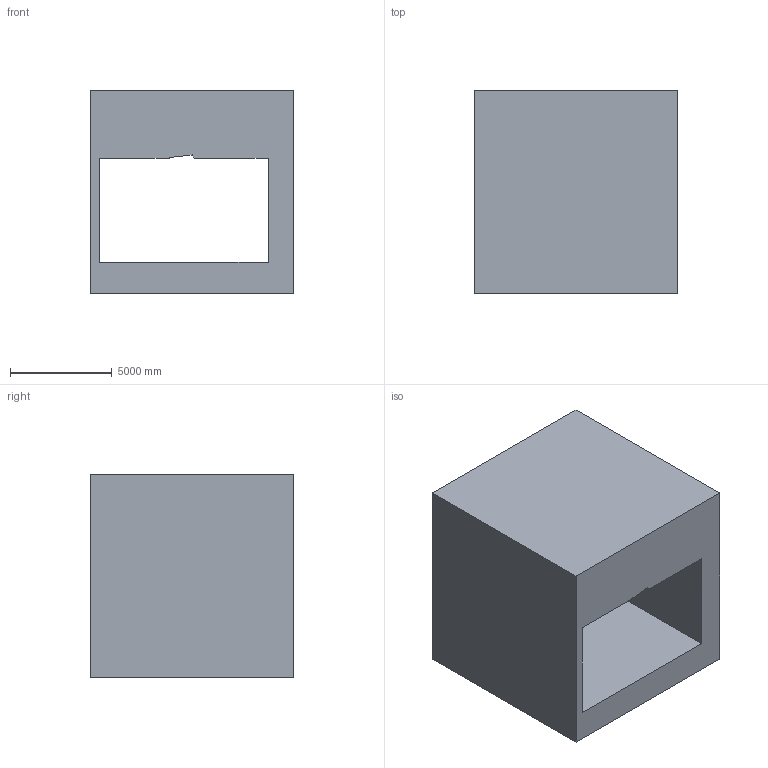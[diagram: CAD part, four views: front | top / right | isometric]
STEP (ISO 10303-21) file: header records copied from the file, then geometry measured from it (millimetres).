
FILE_DESCRIPTION (( 'STEP AP203' ), '1' );
FILE_NAME ('0.STEP', '2022-08-30T13:58:40', ( 'user' ), ( '' ), 'SwSTEP 2.0', 'SolidWorks 2021', '' );
FILE_SCHEMA (( 'CONFIG_CONTROL_DESIGN' ));
Length unit declared in the file: centimetre
Products named in the file (1): 0
Bounding box: 10000 x 10000 x 10000 mm (x, y, z)
Volume: 573993615470.7 mm3; surface area: 784232272.7 mm2
Topology: 1 solids, 1 shells, 14 faces, 36 edges, 24 vertices
Faces by surface type: plane 14
Entity records: 501 total; most frequent: CARTESIAN_POINT 75, ORIENTED_EDGE 72, DIRECTION 66, EDGE_CURVE 36, VECTOR 36, LINE 36, VERTEX_POINT 24, EDGE_LOOP 16
